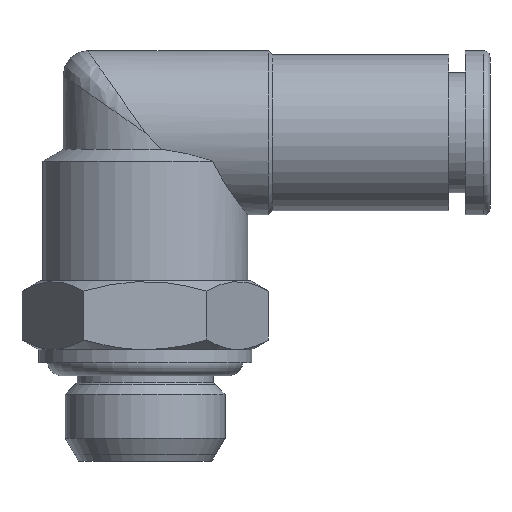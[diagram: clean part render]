
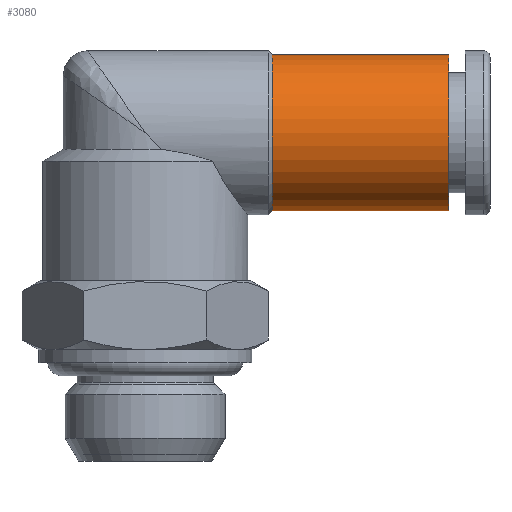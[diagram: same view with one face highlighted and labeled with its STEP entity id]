
A CAD part, front view. The second image highlights one B-rep face of the part: STEP entity #3080.
In plain terms, the highlighted cylindrical face has radius 4.75 mm (diameter 9.5 mm), a full revolution.
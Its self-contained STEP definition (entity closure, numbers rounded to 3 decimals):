
#3080=ADVANCED_FACE('', (#3090,#3100), #3110, .T.);
#8180=AXIS2_PLACEMENT_3D('Ax2Pl3d', #8190, #8200, #8210);
#9580=AXIS2_PLACEMENT_3D('Ax2Pl3d', #9590, #9600, #9610);
#9620=AXIS2_PLACEMENT_3D('Ax2Pl3d', #9630, #9640, #9650);
#8190=CARTESIAN_POINT('HicPkt', (33.194,13.018,16.368)
);
#22600=CARTESIAN_POINT('', (33.194,13.018,21.118));
#9590=CARTESIAN_POINT('HicPkt', (22.444,13.018,
16.368));
#9630=CARTESIAN_POINT('HicPkt', (22.444,13.018,16.368)
);
#22810=CARTESIAN_POINT('', (22.444,13.018,21.118));
#23370=CIRCLE('Circle', #8180, 4.75);
#23530=CIRCLE('Circle', #9620, 4.75);
#3110=CYLINDRICAL_SURFACE('Zyl', #9580, 4.75);
#8200=DIRECTION('Axis', (1.,0.,0.));
#8210=DIRECTION('RefDirection', (0.,0.,-1.));
#9600=DIRECTION('Axis', (1.,0.,0.));
#9610=DIRECTION('RefDirection', (0.,0.,-1.));
#9640=DIRECTION('Axis', (1.,0.,0.));
#9650=DIRECTION('RefDirection', (0.,0.,-1.));
#28090=EDGE_CURVE('', #28100, #28100, #23370, .T.);
#28590=EDGE_CURVE('', #28600, #28600, #23530, .T.);
#31980=EDGE_LOOP('Edge_loop', (#31990));
#32000=EDGE_LOOP('Edge_loop', (#32010));
#3100=FACE_BOUND('', #32000, .T.);
#3090=FACE_OUTER_BOUND('Face_outer_bound', #31980, .T.);
#31990=ORIENTED_EDGE('', *, *, #28090, .F.);
#32010=ORIENTED_EDGE('', *, *, #28590, .T.);
#28100=VERTEX_POINT('', #22600);
#28600=VERTEX_POINT('', #22810);
